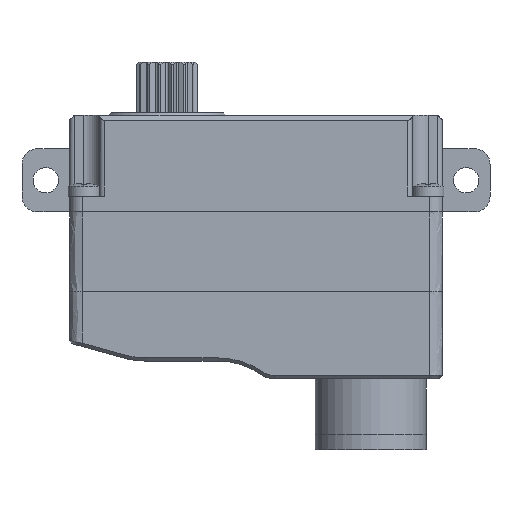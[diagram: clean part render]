
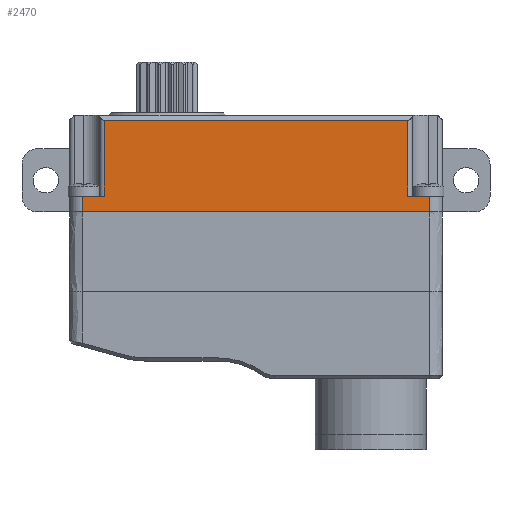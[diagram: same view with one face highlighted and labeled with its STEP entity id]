
A CAD part, front view. The second image highlights one B-rep face of the part: STEP entity #2470.
In plain terms, the highlighted planar face has unit normal (0, -1, 0).
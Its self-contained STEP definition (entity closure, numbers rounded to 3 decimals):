
#65 = LINE ( 'NONE', #2223, #12749 ) ;
#562 = CARTESIAN_POINT ( 'NONE',  ( -96.757, -14.714, 4.354 ) ) ;
#617 = EDGE_CURVE ( 'NONE', #3660, #12660, #65, .T. ) ;
#977 = DIRECTION ( 'NONE',  ( 1., 0., 0. ) ) ;
#1196 = EDGE_CURVE ( 'NONE', #7218, #10283, #5595, .T. ) ;
#1267 = LINE ( 'NONE', #9458, #9191 ) ;
#1295 = CARTESIAN_POINT ( 'NONE',  ( -118.657, -14.714, 7.246 ) ) ;
#1347 = CARTESIAN_POINT ( 'NONE',  ( -98.157, -14.714, 7.246 ) ) ;
#1386 = B_SPLINE_CURVE_WITH_KNOTS ( 'NONE', 1,
 ( #15283, #9060 ),
 .UNSPECIFIED., .F., .F.,
 ( 2, 2 ),
 ( 0., 1. ),
 .UNSPECIFIED. ) ;
#1392 = CARTESIAN_POINT ( 'NONE',  ( -96.757, -14.714, 5.354 ) ) ;
#1743 = FACE_OUTER_BOUND ( 'NONE', #7570, .T. ) ;
#1966 = VERTEX_POINT ( 'NONE', #12138 ) ;
#2019 = VECTOR ( 'NONE', #2622, 1000. ) ;
#2223 = CARTESIAN_POINT ( 'NONE',  ( -107.707, -14.714, 10.137 ) ) ;
#2470 = ADVANCED_FACE ( 'NONE', ( #1743 ), #6103, .T. ) ;
#2622 = DIRECTION ( 'NONE',  ( 0., 0., -1. ) ) ;
#3054 = CARTESIAN_POINT ( 'NONE',  ( -117.257, -14.714, 10.137 ) ) ;
#3178 = DIRECTION ( 'NONE',  ( -1., 0., 0. ) ) ;
#3660 = VERTEX_POINT ( 'NONE', #3054 ) ;
#3717 = EDGE_CURVE ( 'NONE', #4566, #10155, #9517, .T. ) ;
#4147 = ORIENTED_EDGE ( 'NONE', *, *, #11232, .T. ) ;
#4566 = VERTEX_POINT ( 'NONE', #1392 ) ;
#4650 = VECTOR ( 'NONE', #9063, 1000. ) ;
#5239 = CARTESIAN_POINT ( 'NONE',  ( -98.157, -14.714, 5.354 ) ) ;
#5394 = VERTEX_POINT ( 'NONE', #562 ) ;
#5573 = CARTESIAN_POINT ( 'NONE',  ( -118.657, -14.714, 5.354 ) ) ;
#5595 = LINE ( 'NONE', #1295, #2019 ) ;
#5733 = EDGE_CURVE ( 'NONE', #10155, #12660, #12947, .T. ) ;
#6103 = PLANE ( 'NONE',  #7833 ) ;
#6193 = CARTESIAN_POINT ( 'NONE',  ( -96.757, -14.714, 10.137 ) ) ;
#6719 = DIRECTION ( 'NONE',  ( 0., 0., 1. ) ) ;
#6900 = DIRECTION ( 'NONE',  ( 0., 0., 1. ) ) ;
#7218 = VERTEX_POINT ( 'NONE', #5573 ) ;
#7358 = ORIENTED_EDGE ( 'NONE', *, *, #3717, .T. ) ;
#7570 = EDGE_LOOP ( 'NONE', ( #9828, #11231, #4147, #7358, #11005, #12018, #15403, #10061 ) ) ;
#7833 = AXIS2_PLACEMENT_3D ( 'NONE', #6193, #14625, #8619 ) ;
#8213 = LINE ( 'NONE', #9178, #4650 ) ;
#8266 = EDGE_CURVE ( 'NONE', #10283, #5394, #1386, .T. ) ;
#8619 = DIRECTION ( 'NONE',  ( -1., 0., 0. ) ) ;
#9060 = CARTESIAN_POINT ( 'NONE',  ( -96.757, -14.714, 4.354 ) ) ;
#9063 = DIRECTION ( 'NONE',  ( -1., 0., 0. ) ) ;
#9178 = CARTESIAN_POINT ( 'NONE',  ( -107.707, -14.714, 5.354 ) ) ;
#9191 = VECTOR ( 'NONE', #14375, 1000. ) ;
#9458 = CARTESIAN_POINT ( 'NONE',  ( -117.257, -14.714, 7.246 ) ) ;
#9517 = LINE ( 'NONE', #14306, #10485 ) ;
#9828 = ORIENTED_EDGE ( 'NONE', *, *, #1196, .T. ) ;
#9867 = VECTOR ( 'NONE', #6900, 1000. ) ;
#10061 = ORIENTED_EDGE ( 'NONE', *, *, #12453, .T. ) ;
#10155 = VERTEX_POINT ( 'NONE', #5239 ) ;
#10283 = VERTEX_POINT ( 'NONE', #11609 ) ;
#10409 = VECTOR ( 'NONE', #6719, 1000. ) ;
#10485 = VECTOR ( 'NONE', #3178, 1000. ) ;
#10572 = CARTESIAN_POINT ( 'NONE',  ( -98.157, -14.714, 10.137 ) ) ;
#11005 = ORIENTED_EDGE ( 'NONE', *, *, #5733, .T. ) ;
#11231 = ORIENTED_EDGE ( 'NONE', *, *, #8266, .T. ) ;
#11232 = EDGE_CURVE ( 'NONE', #5394, #4566, #13651, .T. ) ;
#11609 = CARTESIAN_POINT ( 'NONE',  ( -118.657, -14.714, 4.354 ) ) ;
#12018 = ORIENTED_EDGE ( 'NONE', *, *, #617, .F. ) ;
#12138 = CARTESIAN_POINT ( 'NONE',  ( -117.257, -14.714, 5.354 ) ) ;
#12453 = EDGE_CURVE ( 'NONE', #1966, #7218, #8213, .T. ) ;
#12660 = VERTEX_POINT ( 'NONE', #10572 ) ;
#12749 = VECTOR ( 'NONE', #977, 1000. ) ;
#12947 = LINE ( 'NONE', #1347, #9867 ) ;
#13651 = LINE ( 'NONE', #13863, #10409 ) ;
#13725 = EDGE_CURVE ( 'NONE', #3660, #1966, #1267, .T. ) ;
#13863 = CARTESIAN_POINT ( 'NONE',  ( -96.757, -14.714, 7.246 ) ) ;
#14306 = CARTESIAN_POINT ( 'NONE',  ( -107.707, -14.714, 5.354 ) ) ;
#14375 = DIRECTION ( 'NONE',  ( 0., 0., -1. ) ) ;
#14625 = DIRECTION ( 'NONE',  ( 0., -1., 0. ) ) ;
#15283 = CARTESIAN_POINT ( 'NONE',  ( -118.657, -14.714, 4.354 ) ) ;
#15403 = ORIENTED_EDGE ( 'NONE', *, *, #13725, .T. ) ;
